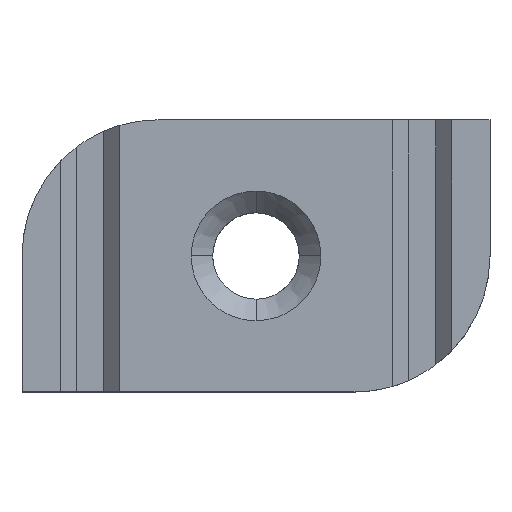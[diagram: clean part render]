
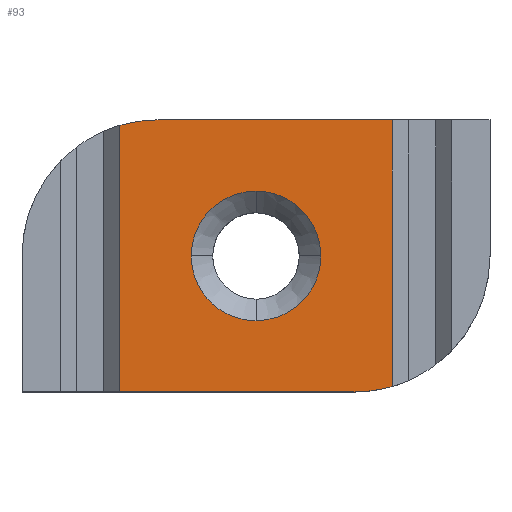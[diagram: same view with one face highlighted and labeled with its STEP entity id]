
A CAD part, top view. The second image highlights one B-rep face of the part: STEP entity #93.
In plain terms, the highlighted planar face has unit normal (0, 0, 1).
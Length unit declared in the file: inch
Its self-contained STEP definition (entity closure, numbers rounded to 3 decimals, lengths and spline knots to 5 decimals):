
#93=ADVANCED_FACE('',(#191,#192),#193,.F.);
#191=FACE_OUTER_BOUND('',#995,.T.);
#192=FACE_BOUND('',#996,.T.);
#193=PLANE('',#997);
#995=EDGE_LOOP('',(#1993,#1994,#1995,#1996,#1997,#1998));
#996=EDGE_LOOP('',(#1999,#2000,#2001,#2002));
#997=AXIS2_PLACEMENT_3D('',#2003,#2004,#2005);
#1993=ORIENTED_EDGE('',*,*,#2110,.T.);
#1994=ORIENTED_EDGE('',*,*,#2149,.T.);
#1995=ORIENTED_EDGE('',*,*,#2162,.F.);
#1996=ORIENTED_EDGE('',*,*,#2097,.T.);
#1997=ORIENTED_EDGE('',*,*,#2093,.T.);
#1998=ORIENTED_EDGE('',*,*,#2140,.F.);
#1999=ORIENTED_EDGE('',*,*,#2163,.F.);
#2000=ORIENTED_EDGE('',*,*,#2164,.F.);
#2001=ORIENTED_EDGE('',*,*,#2165,.F.);
#2002=ORIENTED_EDGE('',*,*,#2131,.F.);
#2003=CARTESIAN_POINT('',(0.0,0.,0.51181));
#2004=DIRECTION('',(0.0,0.0,-1.0));
#2005=DIRECTION('',(1.0,0.0,0.0));
#2093=EDGE_CURVE('',#2197,#2210,#2212,.T.);
#2097=EDGE_CURVE('',#2215,#2197,#2218,.T.);
#2110=EDGE_CURVE('',#2241,#2238,#2242,.T.);
#2131=EDGE_CURVE('',#2270,#2273,#2274,.T.);
#2140=EDGE_CURVE('',#2241,#2210,#2285,.T.);
#2149=EDGE_CURVE('',#2238,#2296,#2298,.T.);
#2162=EDGE_CURVE('',#2215,#2296,#2313,.T.);
#2163=EDGE_CURVE('',#2314,#2270,#2315,.T.);
#2164=EDGE_CURVE('',#2316,#2314,#2317,.T.);
#2165=EDGE_CURVE('',#2273,#2316,#2318,.T.);
#2197=VERTEX_POINT('',#2354);
#2210=VERTEX_POINT('',#2373);
#2212=LINE('',#2376,#2377);
#2215=VERTEX_POINT('',#2380);
#2218=LINE('',#2384,#2385);
#2238=VERTEX_POINT('',#2425);
#2241=VERTEX_POINT('',#2429);
#2242=LINE('',#2430,#2431);
#2270=VERTEX_POINT('',#2598);
#2273=VERTEX_POINT('',#2602);
#2274=B_SPLINE_CURVE_WITH_KNOTS('',3,(#2603,#2604,#2605,#2606,#2607,#2608,#2609,#2610,#2611,#2612,#2613,#2614),.UNSPECIFIED.,.F.,.F.,(4,2,2,2,2,4),(0.0,1.82025,3.63108,5.49217,6.45508,7.4438),.UNSPECIFIED.);
#2285=CIRCLE('',#2642,0.3937);
#2296=VERTEX_POINT('',#2657);
#2298=LINE('',#2660,#2661);
#2313=CIRCLE('',#2684,0.3937);
#2314=VERTEX_POINT('',#2685);
#2315=B_SPLINE_CURVE_WITH_KNOTS('',3,(#2686,#2687,#2688,#2689,#2690,#2691,#2692,#2693,#2694,#2695,#2696,#2697,#2698,#2699),.UNSPECIFIED.,.F.,.F.,(4,2,2,2,2,2,4),(0.0,0.98873,1.95164,3.7219,3.81272,5.62356,7.4438),.UNSPECIFIED.);
#2316=VERTEX_POINT('',#2700);
#2317=B_SPLINE_CURVE_WITH_KNOTS('',3,(#2701,#2702,#2703,#2704,#2705,#2706,#2707,#2708,#2709,#2710,#2711,#2712),.UNSPECIFIED.,.F.,.F.,(4,2,2,2,2,4),(0.0,0.98873,1.95164,3.81272,5.62356,7.4438),.UNSPECIFIED.);
#2318=B_SPLINE_CURVE_WITH_KNOTS('',3,(#2713,#2714,#2715,#2716,#2717,#2718,#2719,#2720,#2721,#2722,#2723,#2724),.UNSPECIFIED.,.F.,.F.,(4,2,2,2,2,4),(0.0,0.98873,1.95164,3.81272,5.62356,7.4438),.UNSPECIFIED.);
#2354=CARTESIAN_POINT('',(-0.3937,-0.3937,0.51181));
#2373=CARTESIAN_POINT('',(0.28346,-0.3937,0.51181));
#2376=CARTESIAN_POINT('',(-0.67717,-0.3937,0.51181));
#2377=VECTOR('',#2789,0.3937);
#2380=CARTESIAN_POINT('',(-0.3937,0.37795,0.51181));
#2384=CARTESIAN_POINT('',(-0.3937,-0.19685,0.51181));
#2385=VECTOR('',#2794,0.3937);
#2425=CARTESIAN_POINT('',(0.3937,0.3937,0.51181));
#2429=CARTESIAN_POINT('',(0.3937,-0.37795,0.51181));
#2430=CARTESIAN_POINT('',(0.3937,-0.19685,0.51181));
#2431=VECTOR('',#2802,0.3937);
#2598=CARTESIAN_POINT('',(-0.1875,0.,0.51181));
#2602=CARTESIAN_POINT('',(0.0,-0.1875,0.51181));
#2603=CARTESIAN_POINT('',(-0.1875,0.,0.51181));
#2604=CARTESIAN_POINT('',(-0.1875,-0.02389,0.51181));
#2605=CARTESIAN_POINT('',(-0.1828,-0.04821,0.51181));
#2606=CARTESIAN_POINT('',(-0.16492,-0.09238,0.51181));
#2607=CARTESIAN_POINT('',(-0.15149,-0.11302,0.51181));
#2608=CARTESIAN_POINT('',(-0.11804,-0.14771,0.51181));
#2609=CARTESIAN_POINT('',(-0.09722,-0.1622,0.51181));
#2610=CARTESIAN_POINT('',(-0.06325,-0.177,0.51181));
#2611=CARTESIAN_POINT('',(-0.05108,-0.18088,0.51181));
#2612=CARTESIAN_POINT('',(-0.02602,-0.18616,0.51181));
#2613=CARTESIAN_POINT('',(-0.01298,-0.1875,0.51181));
#2614=CARTESIAN_POINT('',(0.0,-0.1875,0.51181));
#2642=AXIS2_PLACEMENT_3D('',#2832,#2833,#2834);
#2657=CARTESIAN_POINT('',(-0.28346,0.3937,0.51181));
#2660=CARTESIAN_POINT('',(0.67717,0.3937,0.51181));
#2661=VECTOR('',#2843,0.3937);
#2684=AXIS2_PLACEMENT_3D('',#2858,#2859,#2860);
#2685=CARTESIAN_POINT('',(0.0,0.1875,0.51181));
#2686=CARTESIAN_POINT('',(0.0,0.1875,0.51181));
#2687=CARTESIAN_POINT('',(-0.01298,0.1875,0.51181));
#2688=CARTESIAN_POINT('',(-0.02602,0.18616,0.51181));
#2689=CARTESIAN_POINT('',(-0.05108,0.18088,0.51181));
#2690=CARTESIAN_POINT('',(-0.06325,0.177,0.51181));
#2691=CARTESIAN_POINT('',(-0.09613,0.16268,0.51181));
#2692=CARTESIAN_POINT('',(-0.11602,0.14913,0.51181));
#2693=CARTESIAN_POINT('',(-0.13333,0.13184,0.51181));
#2694=CARTESIAN_POINT('',(-0.13417,0.13099,0.51181));
#2695=CARTESIAN_POINT('',(-0.15149,0.11302,0.51181));
#2696=CARTESIAN_POINT('',(-0.16492,0.09238,0.51181));
#2697=CARTESIAN_POINT('',(-0.1828,0.04821,0.51181));
#2698=CARTESIAN_POINT('',(-0.1875,0.02389,0.51181));
#2699=CARTESIAN_POINT('',(-0.1875,0.,0.51181));
#2700=CARTESIAN_POINT('',(0.1875,0.,0.51181));
#2701=CARTESIAN_POINT('',(0.1875,0.,0.51181));
#2702=CARTESIAN_POINT('',(0.1875,0.01298,0.51181));
#2703=CARTESIAN_POINT('',(0.18616,0.02602,0.51181));
#2704=CARTESIAN_POINT('',(0.18088,0.05108,0.51181));
#2705=CARTESIAN_POINT('',(0.177,0.06325,0.51181));
#2706=CARTESIAN_POINT('',(0.1622,0.09722,0.51181));
#2707=CARTESIAN_POINT('',(0.14771,0.11804,0.51181));
#2708=CARTESIAN_POINT('',(0.11302,0.15149,0.51181));
#2709=CARTESIAN_POINT('',(0.09238,0.16492,0.51181));
#2710=CARTESIAN_POINT('',(0.04821,0.1828,0.51181));
#2711=CARTESIAN_POINT('',(0.02389,0.1875,0.51181));
#2712=CARTESIAN_POINT('',(0.0,0.1875,0.51181));
#2713=CARTESIAN_POINT('',(0.0,-0.1875,0.51181));
#2714=CARTESIAN_POINT('',(0.01298,-0.1875,0.51181));
#2715=CARTESIAN_POINT('',(0.02602,-0.18616,0.51181));
#2716=CARTESIAN_POINT('',(0.05108,-0.18088,0.51181));
#2717=CARTESIAN_POINT('',(0.06325,-0.177,0.51181));
#2718=CARTESIAN_POINT('',(0.09722,-0.1622,0.51181));
#2719=CARTESIAN_POINT('',(0.11804,-0.14771,0.51181));
#2720=CARTESIAN_POINT('',(0.15149,-0.11302,0.51181));
#2721=CARTESIAN_POINT('',(0.16492,-0.09238,0.51181));
#2722=CARTESIAN_POINT('',(0.1828,-0.04821,0.51181));
#2723=CARTESIAN_POINT('',(0.1875,-0.02389,0.51181));
#2724=CARTESIAN_POINT('',(0.1875,0.,0.51181));
#2789=DIRECTION('',(1.0,0.0,0.0));
#2794=DIRECTION('',(0.0,-1.0,0.0));
#2802=DIRECTION('',(0.0,1.0,0.0));
#2832=CARTESIAN_POINT('',(0.28346,0.,0.51181));
#2833=DIRECTION('',(0.0,0.0,-1.0));
#2834=DIRECTION('',(0.707,-0.707,0.0));
#2843=DIRECTION('',(-1.0,0.0,0.0));
#2858=CARTESIAN_POINT('',(-0.28346,0.,0.51181));
#2859=DIRECTION('',(0.0,0.0,-1.0));
#2860=DIRECTION('',(-0.707,0.707,0.0));
